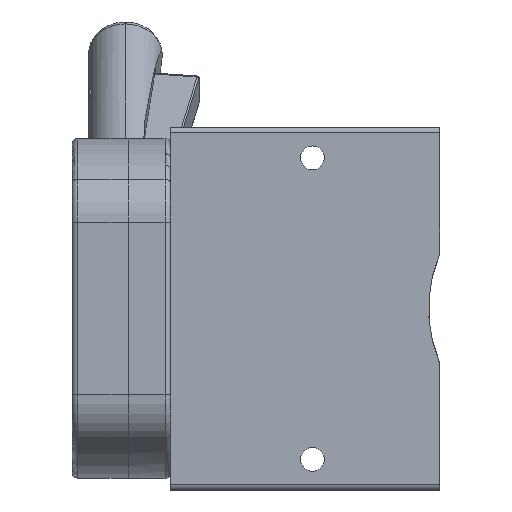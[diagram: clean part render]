
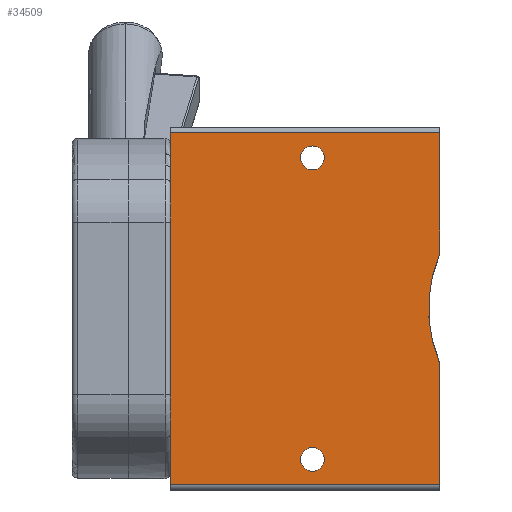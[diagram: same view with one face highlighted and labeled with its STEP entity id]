
A CAD part, left-side view. The second image highlights one B-rep face of the part: STEP entity #34509.
In plain terms, the highlighted planar face has unit normal (-1, 0, 0).
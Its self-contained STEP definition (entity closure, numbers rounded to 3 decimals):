
#1970 = LINE ( 'NONE', #2236, #52245 ) ;
#2122 = VERTEX_POINT ( 'NONE', #32364 ) ;
#2236 = CARTESIAN_POINT ( 'NONE',  ( -20.63, 47.5, -31. ) ) ;
#2939 = DIRECTION ( 'NONE',  ( 0., 0., 1. ) ) ;
#3197 = DIRECTION ( 'NONE',  ( 1., 0., 0. ) ) ;
#3212 = EDGE_CURVE ( 'NONE', #50499, #46230, #9392, .T. ) ;
#3359 = EDGE_CURVE ( 'NONE', #23586, #17666, #26108, .T. ) ;
#5590 = CARTESIAN_POINT ( 'NONE',  ( -20.63, 22.5, -26.592 ) ) ;
#6964 = CARTESIAN_POINT ( 'NONE',  ( -20.63, 22.5, 28.692 ) ) ;
#7232 = DIRECTION ( 'NONE',  ( 0., 0., 1. ) ) ;
#7513 = DIRECTION ( 'NONE',  ( 0., 0., 1. ) ) ;
#7909 = PLANE ( 'NONE',  #42810 ) ;
#8318 = ORIENTED_EDGE ( 'NONE', *, *, #48593, .T. ) ;
#9004 = ORIENTED_EDGE ( 'NONE', *, *, #55096, .F. ) ;
#9392 = LINE ( 'NONE', #45712, #36829 ) ;
#10604 = CIRCLE ( 'NONE', #48456, 25. ) ;
#10694 = DIRECTION ( 'NONE',  ( -1., 0., 0. ) ) ;
#10934 = AXIS2_PLACEMENT_3D ( 'NONE', #5590, #20312, #25428 ) ;
#11847 = AXIS2_PLACEMENT_3D ( 'NONE', #34732, #10694, #34946 ) ;
#12845 = CARTESIAN_POINT ( 'NONE',  ( -20.63, 47.5, -31. ) ) ;
#14347 = ORIENTED_EDGE ( 'NONE', *, *, #48509, .F. ) ;
#15180 = ORIENTED_EDGE ( 'NONE', *, *, #3359, .T. ) ;
#16702 = VERTEX_POINT ( 'NONE', #21331 ) ;
#16757 = LINE ( 'NONE', #37154, #47195 ) ;
#17666 = VERTEX_POINT ( 'NONE', #59486 ) ;
#17850 = DIRECTION ( 'NONE',  ( 0., -1., 0. ) ) ;
#18279 = EDGE_CURVE ( 'NONE', #25128, #46230, #16757, .T. ) ;
#18719 = ORIENTED_EDGE ( 'NONE', *, *, #3212, .T. ) ;
#20312 = DIRECTION ( 'NONE',  ( -1., 0., 0. ) ) ;
#20430 = DIRECTION ( 'NONE',  ( -1., 0., 0. ) ) ;
#21288 = DIRECTION ( 'NONE',  ( 0., 0., 1. ) ) ;
#21331 = CARTESIAN_POINT ( 'NONE',  ( -20.63, 22.5, -24.492 ) ) ;
#21656 = VECTOR ( 'NONE', #40271, 1000. ) ;
#23586 = VERTEX_POINT ( 'NONE', #29238 ) ;
#23685 = ORIENTED_EDGE ( 'NONE', *, *, #32121, .T. ) ;
#25128 = VERTEX_POINT ( 'NONE', #12845 ) ;
#25428 = DIRECTION ( 'NONE',  ( 0., 0., 1. ) ) ;
#25955 = CARTESIAN_POINT ( 'NONE',  ( -20.63, 22.5, 26.592 ) ) ;
#26063 = EDGE_LOOP ( 'NONE', ( #14347, #9004 ) ) ;
#26108 = LINE ( 'NONE', #47199, #50426 ) ;
#26727 = CARTESIAN_POINT ( 'NONE',  ( -20.63, 0., 31. ) ) ;
#27239 = AXIS2_PLACEMENT_3D ( 'NONE', #31527, #45527, #7232 ) ;
#28785 = ORIENTED_EDGE ( 'NONE', *, *, #30454, .F. ) ;
#29238 = CARTESIAN_POINT ( 'NONE',  ( -20.63, 0., -31. ) ) ;
#30454 = EDGE_CURVE ( 'NONE', #2122, #40717, #36335, .T. ) ;
#31527 = CARTESIAN_POINT ( 'NONE',  ( -20.63, 22.5, 26.592 ) ) ;
#32121 = EDGE_CURVE ( 'NONE', #17666, #46070, #10604, .T. ) ;
#32364 = CARTESIAN_POINT ( 'NONE',  ( -20.63, 22.5, 24.492 ) ) ;
#32406 = CARTESIAN_POINT ( 'NONE',  ( -20.63, -23., 0. ) ) ;
#33915 = CARTESIAN_POINT ( 'NONE',  ( -20.63, 47.5, 31. ) ) ;
#34025 = EDGE_LOOP ( 'NONE', ( #58290, #28785 ) ) ;
#34509 = ADVANCED_FACE ( 'NONE', ( #58952, #50621, #52181 ), #7909, .F. ) ;
#34732 = CARTESIAN_POINT ( 'NONE',  ( -20.63, 22.5, -26.592 ) ) ;
#34946 = DIRECTION ( 'NONE',  ( 0., 0., 1. ) ) ;
#35589 = CARTESIAN_POINT ( 'NONE',  ( -20.63, 0., 32. ) ) ;
#36335 = CIRCLE ( 'NONE', #38639, 2.1 ) ;
#36829 = VECTOR ( 'NONE', #50608, 1000. ) ;
#37154 = CARTESIAN_POINT ( 'NONE',  ( -20.63, 47.5, 32. ) ) ;
#38639 = AXIS2_PLACEMENT_3D ( 'NONE', #25955, #20430, #21288 ) ;
#40271 = DIRECTION ( 'NONE',  ( 0., 0., 1. ) ) ;
#40717 = VERTEX_POINT ( 'NONE', #6964 ) ;
#41654 = EDGE_CURVE ( 'NONE', #40717, #2122, #50530, .T. ) ;
#42192 = DIRECTION ( 'NONE',  ( 0., 0., -1. ) ) ;
#42810 = AXIS2_PLACEMENT_3D ( 'NONE', #52357, #51728, #42192 ) ;
#45527 = DIRECTION ( 'NONE',  ( -1., 0., 0. ) ) ;
#45712 = CARTESIAN_POINT ( 'NONE',  ( -20.63, 47.5, 31. ) ) ;
#46070 = VERTEX_POINT ( 'NONE', #47695 ) ;
#46230 = VERTEX_POINT ( 'NONE', #33915 ) ;
#47195 = VECTOR ( 'NONE', #7513, 1000. ) ;
#47199 = CARTESIAN_POINT ( 'NONE',  ( -20.63, 0., 32. ) ) ;
#47695 = CARTESIAN_POINT ( 'NONE',  ( -20.63, 0., 9.798 ) ) ;
#48456 = AXIS2_PLACEMENT_3D ( 'NONE', #32406, #3197, #51719 ) ;
#48509 = EDGE_CURVE ( 'NONE', #16702, #56356, #52096, .T. ) ;
#48593 = EDGE_CURVE ( 'NONE', #46070, #50499, #55108, .T. ) ;
#49225 = ORIENTED_EDGE ( 'NONE', *, *, #61133, .T. ) ;
#50350 = CIRCLE ( 'NONE', #10934, 2.1 ) ;
#50426 = VECTOR ( 'NONE', #2939, 1000. ) ;
#50499 = VERTEX_POINT ( 'NONE', #26727 ) ;
#50530 = CIRCLE ( 'NONE', #27239, 2.1 ) ;
#50608 = DIRECTION ( 'NONE',  ( 0., 1., 0. ) ) ;
#50621 = FACE_OUTER_BOUND ( 'NONE', #58744, .T. ) ;
#51417 = CARTESIAN_POINT ( 'NONE',  ( -20.63, 22.5, -28.692 ) ) ;
#51719 = DIRECTION ( 'NONE',  ( 0., 0., -1. ) ) ;
#51728 = DIRECTION ( 'NONE',  ( 1., 0., 0. ) ) ;
#52096 = CIRCLE ( 'NONE', #11847, 2.1 ) ;
#52181 = FACE_BOUND ( 'NONE', #34025, .T. ) ;
#52245 = VECTOR ( 'NONE', #17850, 1000. ) ;
#52357 = CARTESIAN_POINT ( 'NONE',  ( -20.63, 47.5, 32. ) ) ;
#52937 = ORIENTED_EDGE ( 'NONE', *, *, #18279, .F. ) ;
#55096 = EDGE_CURVE ( 'NONE', #56356, #16702, #50350, .T. ) ;
#55108 = LINE ( 'NONE', #35589, #21656 ) ;
#56356 = VERTEX_POINT ( 'NONE', #51417 ) ;
#58290 = ORIENTED_EDGE ( 'NONE', *, *, #41654, .F. ) ;
#58744 = EDGE_LOOP ( 'NONE', ( #52937, #49225, #15180, #23685, #8318, #18719 ) ) ;
#58952 = FACE_BOUND ( 'NONE', #26063, .T. ) ;
#59486 = CARTESIAN_POINT ( 'NONE',  ( -20.63, 0., -9.798 ) ) ;
#61133 = EDGE_CURVE ( 'NONE', #25128, #23586, #1970, .T. ) ;
